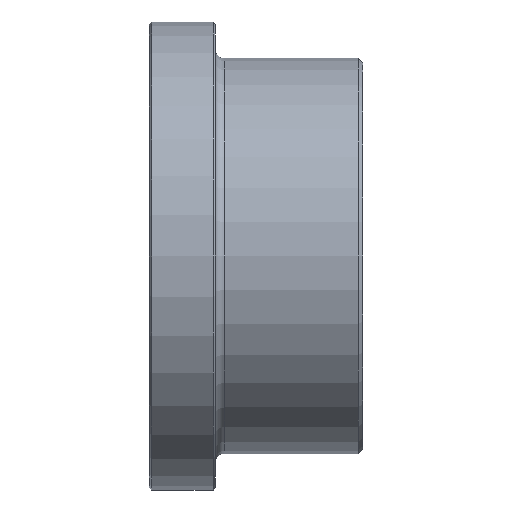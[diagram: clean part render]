
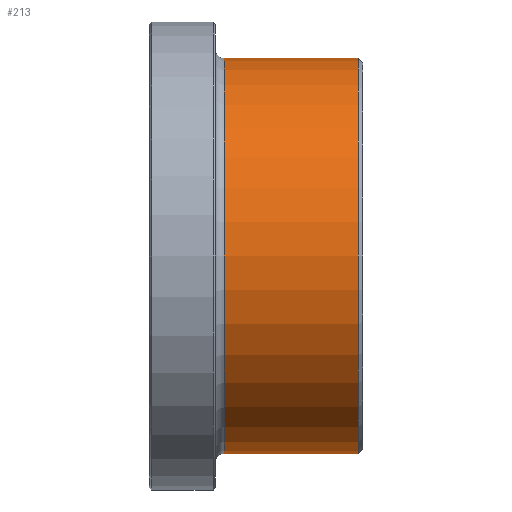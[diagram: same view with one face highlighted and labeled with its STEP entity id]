
A CAD part, front view. The second image highlights one B-rep face of the part: STEP entity #213.
In plain terms, the highlighted cylindrical face has radius 90 mm (diameter 180 mm), a full revolution.
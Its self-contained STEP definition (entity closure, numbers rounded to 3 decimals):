
#30=CYLINDRICAL_SURFACE('',#251,90.);
#39=ORIENTED_EDGE('',*,*,#77,.T.);
#40=ORIENTED_EDGE('',*,*,#78,.F.);
#77=EDGE_CURVE('',#96,#96,#115,.T.);
#78=EDGE_CURVE('',#97,#97,#116,.T.);
#96=VERTEX_POINT('',#376);
#97=VERTEX_POINT('',#378);
#115=CIRCLE('',#252,90.);
#116=CIRCLE('',#253,90.);
#134=EDGE_LOOP('',(#39));
#135=EDGE_LOOP('',(#40));
#172=FACE_BOUND('',#134,.T.);
#173=FACE_BOUND('',#135,.T.);
#213=ADVANCED_FACE('',(#172,#173),#30,.T.);
#251=AXIS2_PLACEMENT_3D('',#374,#300,#301);
#252=AXIS2_PLACEMENT_3D('',#375,#302,#303);
#253=AXIS2_PLACEMENT_3D('',#377,#304,#305);
#300=DIRECTION('',(-1.,0.,0.));
#301=DIRECTION('',(0.,0.,1.));
#302=DIRECTION('',(-1.,0.,0.));
#303=DIRECTION('',(0.,0.,1.));
#304=DIRECTION('',(-1.,0.,0.));
#305=DIRECTION('',(0.,0.,1.));
#374=CARTESIAN_POINT('',(60.,0.,0.));
#375=CARTESIAN_POINT('',(95.,0.,0.));
#376=CARTESIAN_POINT('',(95.,0.,90.));
#377=CARTESIAN_POINT('',(34.,0.,0.));
#378=CARTESIAN_POINT('',(34.,0.,90.));
